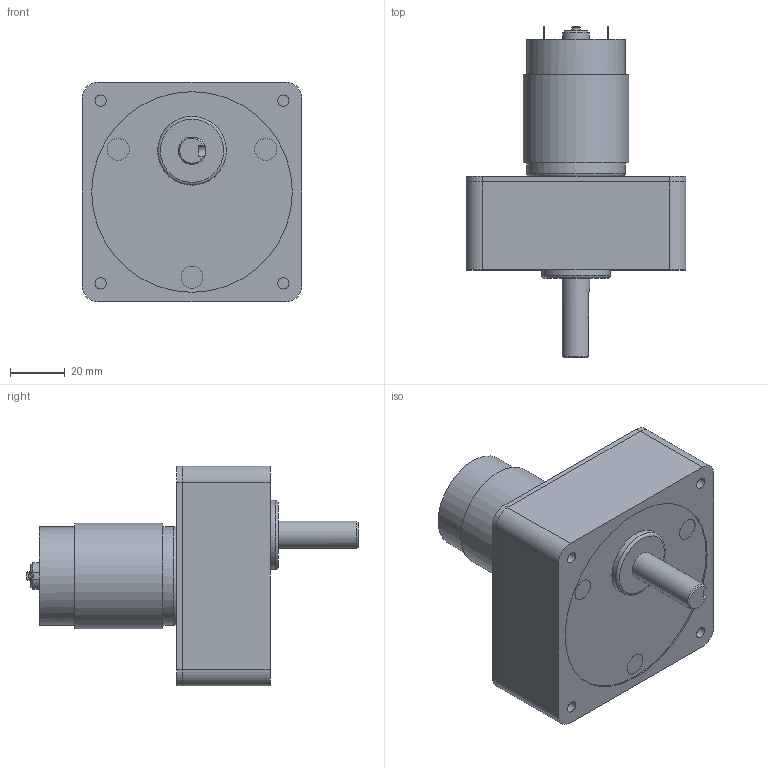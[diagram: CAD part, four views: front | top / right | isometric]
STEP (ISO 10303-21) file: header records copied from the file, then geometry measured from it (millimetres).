
FILE_DESCRIPTION(/* description */ (''),/* implementation_level */ '2;1');
FILE_NAME(/* name */ 'TP-3850-DM-2.stp',/* time_stamp */ '2024-05-31T18:14:18+09:00',/* author */ ('user'),/* organization */ (''),/* preprocessor_version */ 'ST-DEVELOPER v20',/* originating_system */ 'Autodesk Inventor 2024',/* authorisation */ '');
FILE_SCHEMA (('AUTOMOTIVE_DESIGN { 1 0 10303 214 3 1 1 }'));
Length unit declared in the file: millimetre
Products named in the file (4): TP-3850-DM-5~18-J00-24; TP-3850K(RS-645); DM-2; BR0035-Y014
Assembly tree (3 placements, depth 2):
  TP-3850-DM-5~18-J00-24
    TP-3850K(RS-645)
    DM-2
    BR0035-Y014
Bounding box: 80 x 120.8 x 80 mm (x, y, z)
Volume: 258230.9 mm3; surface area: 49460.3 mm2
Topology: 4 solids, 4 shells, 138 faces, 302 edges, 200 vertices
Faces by surface type: plane 73, cylinder 50, torus 10, cone 5
Full cylindrical faces by diameter (mm): 1.5 x1, 2.459 x2, 2.5 x5, 3.17 x2, 4.134 x4, 5.5 x4, 7.4 x1, 8 x3, 9.8 x1, 10 x1, 11 x1, 13 x1, 15.1 x1, 25 x1, 34.8 x1, 35.8 x1, 73 x2
Entity records: 4091 total; most frequent: DIRECTION 720, CARTESIAN_POINT 667, ORIENTED_EDGE 600, EDGE_CURVE 300, AXIS2_PLACEMENT_3D 279, VERTEX_POINT 200, EDGE_LOOP 182, LINE 162
